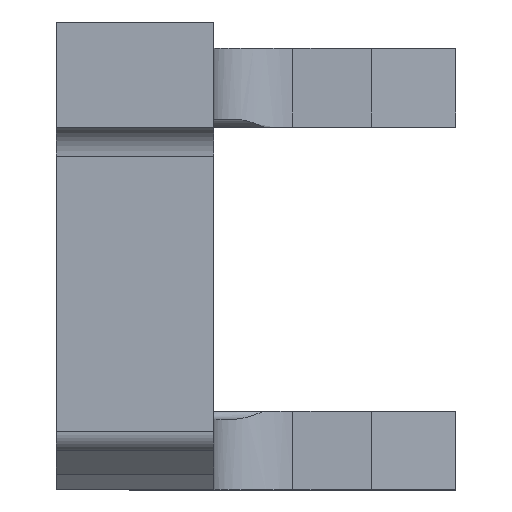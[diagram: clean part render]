
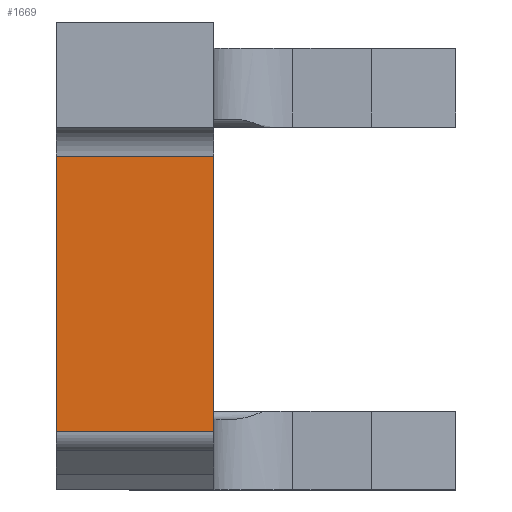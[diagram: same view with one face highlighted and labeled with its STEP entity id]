
A CAD part, left-side view. The second image highlights one B-rep face of the part: STEP entity #1669.
In plain terms, the highlighted free-form (B-spline) face has degree [1, 1] with [2, 2] control points.
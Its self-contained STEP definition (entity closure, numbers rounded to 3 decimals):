
#776=CARTESIAN_POINT('',(-76.338,28.375,-17.5));
#777=VERTEX_POINT('',#776);
#785=CARTESIAN_POINT('',(-76.338,28.375,-69.856));
#786=VERTEX_POINT('',#785);
#787=CARTESIAN_POINT('',(-76.338,28.375,-17.5));
#788=DIRECTION('',(0.0,0.0,-1.0));
#789=VECTOR('',#788,52.356);
#790=LINE('',#787,#789);
#791=EDGE_CURVE('',#777,#786,#790,.T.);
#1437=CARTESIAN_POINT('',(-76.338,58.375,-69.856));
#1438=VERTEX_POINT('',#1437);
#1446=CARTESIAN_POINT('',(-76.338,58.375,-17.5));
#1447=VERTEX_POINT('',#1446);
#1448=CARTESIAN_POINT('',(-76.338,58.375,-69.856));
#1449=DIRECTION('',(0.0,0.0,1.0));
#1450=VECTOR('',#1449,52.356);
#1451=LINE('',#1448,#1450);
#1452=EDGE_CURVE('',#1438,#1447,#1451,.T.);
#1643=CARTESIAN_POINT('',(-76.338,58.375,-17.5));
#1644=DIRECTION('',(0.0,-1.0,0.0));
#1645=VECTOR('',#1644,30.);
#1646=LINE('',#1643,#1645);
#1647=EDGE_CURVE('',#1447,#777,#1646,.T.);
#1653=CARTESIAN_POINT('',(-76.338,58.375,-69.856));
#1654=CARTESIAN_POINT('',(-76.338,58.375,-17.5));
#1655=CARTESIAN_POINT('',(-76.338,28.375,-69.856));
#1656=CARTESIAN_POINT('',(-76.338,28.375,-17.5));
#1657=B_SPLINE_SURFACE_WITH_KNOTS('',1,1,((#1653,#1655),(#1654,#1656)),.UNSPECIFIED.,.F.,.F.,.U.,(2,2),(2,2),(0.0,52.356),(0.0,30.),.UNSPECIFIED.);
#1658=ORIENTED_EDGE('',*,*,#791,.F.);
#1659=ORIENTED_EDGE('',*,*,#1647,.F.);
#1660=ORIENTED_EDGE('',*,*,#1452,.F.);
#1661=CARTESIAN_POINT('',(-76.338,58.375,-69.856));
#1662=DIRECTION('',(0.0,-1.0,0.0));
#1663=VECTOR('',#1662,30.);
#1664=LINE('',#1661,#1663);
#1665=EDGE_CURVE('',#1438,#786,#1664,.T.);
#1666=ORIENTED_EDGE('',*,*,#1665,.T.);
#1667=EDGE_LOOP('',(#1658,#1659,#1660,#1666));
#1668=FACE_OUTER_BOUND('',#1667,.T.);
#1669=ADVANCED_FACE('',(#1668),#1657,.F.);
